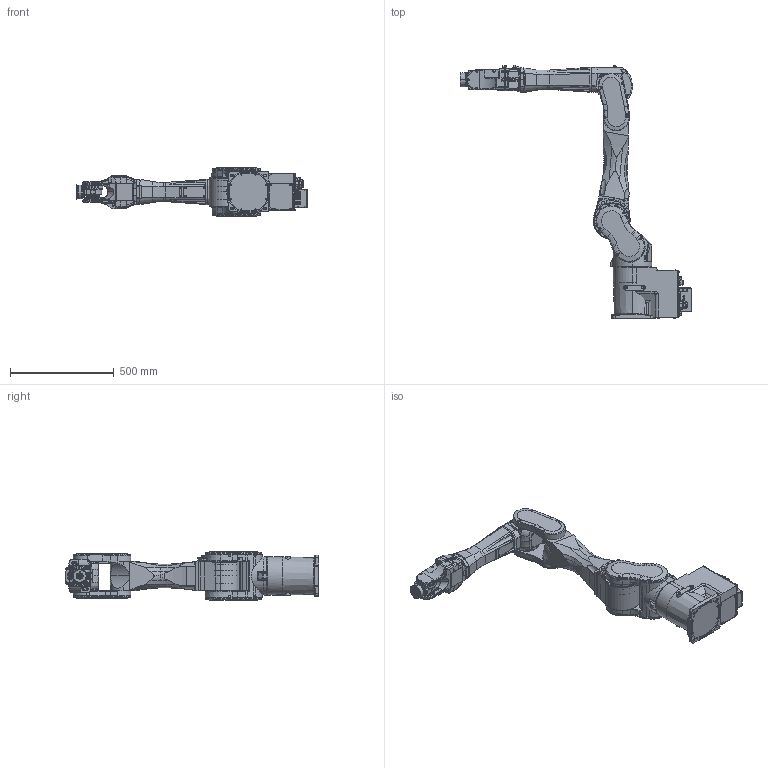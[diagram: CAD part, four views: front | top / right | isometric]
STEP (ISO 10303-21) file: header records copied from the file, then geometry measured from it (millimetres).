
FILE_DESCRIPTION (( 'STEP AP214' ), '1' );
FILE_NAME ('C12-x1401C.STEP', '2025-08-26T21:23:10', ( '' ), ( '' ), 'SwSTEP 2.0', 'SolidWorks 2020', '' );
FILE_SCHEMA (( 'AUTOMOTIVE_DESIGN' ));
Length unit declared in the file: millimetre
Products named in the file (8): J1_C8S-1; J4_C12XLS-4; J2_C8XLC-2; C12-x1401C; J6_C8S-6; J5_C8S-5; BASE_C8XLCR-B; J3_C12XLS__7_-3
Assembly tree (7 placements, depth 2):
  C12-x1401C
    BASE_C8XLCR-B
    J1_C8S-1
    J2_C8XLC-2
    J3_C12XLS__7_-3
    J4_C12XLS-4
    J5_C8S-5
    J6_C8S-6
Bounding box: 1116.5 x 1222.5 x 236 mm (x, y, z)
Volume: 22578073.7 mm3; surface area: 2058149.2 mm2
Topology: 5 solids, 10 shells, 4964 faces, 12480 edges, 7966 vertices
Faces by surface type: plane 2206, cylinder 1566, cone 660, torus 398, sphere 88, bspline 46
Entity records: 208091 total; most frequent: CARTESIAN_POINT 77157, ORIENTED_EDGE 24794, DIRECTION 21780, EDGE_CURVE 12410, AXIS2_PLACEMENT_3D 8259, VERTEX_POINT 7966, EDGE_LOOP 5511, LINE 5262
